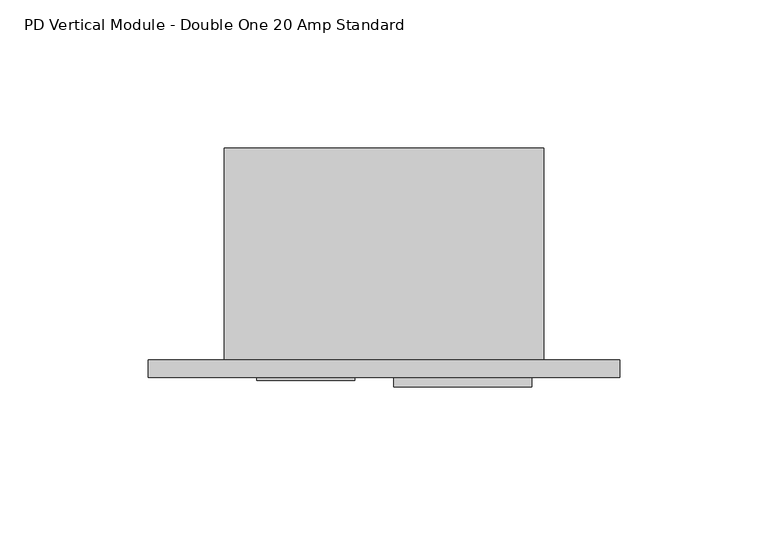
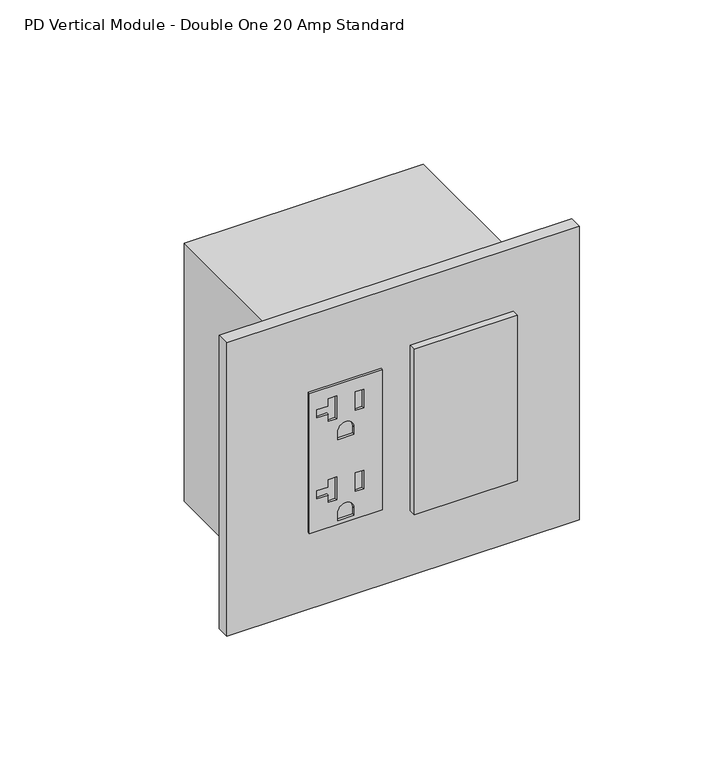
"""IFC4 building model written with IfcOpenShell, lengths in millimetres: proxy geometry, Electrical-Teknion-EPDMD_Vertical_Power_Data_Double-R2019 : PD Vertical Module - Double One 20 Amp Standard."""

from ifc_helpers import new_model, si_unit, point, frame, frame_2d, origin, place, context, project, spatial, polyline, circle_curve, trimmed, segment, composite_curve, outline, extrude, source, transform, mapped, element, save


def pd_vertical_module_double_one_20_amp_standard_2b35b868(model_context):
    return source(origin(), model_context, "Body", "SweptSolid", [
        extrude(outline(polyline([(414.4772, 44.0944), (414.4772, 11.0998), (347.5228, 11.0998), (347.5228, 44.0944), (414.4772, 44.0944)]), holes=[polyline([(409.0924, 23.4442), (398.272, 23.4442), (398.272, 19.6088), (401.7518, 19.6088), (401.7518, 14.5034), (405.6126, 14.5034), (405.6126, 19.6088), (409.0924, 19.6088), (409.0924, 23.4442)]), polyline([(408.1145, 35.6108), (399.2499, 35.6108), (399.2499, 31.7754), (408.1145, 31.7754), (408.1145, 35.6108)]), composite_curve([segment(polyline([(388.0866, 31.2293), (388.0866, 23.9649), (391.7188, 23.9649)]), True, "CONTINUOUS"), segment(trimmed(circle_curve(frame_2d((391.7188, 27.5971)), 3.6322), [point((391.7188, 23.9649))], [point((391.7188, 31.2293))], True, "CARTESIAN"), True, "CONTINUOUS"), segment(polyline([(391.7188, 31.2293), (388.0866, 31.2293)]), True, "CONTINUOUS")], self_intersect=False), polyline([(370.3574, 23.4442), (359.537, 23.4442), (359.537, 19.6088), (363.0168, 19.6088), (363.0168, 14.5034), (366.8776, 14.5034), (366.8776, 19.6088), (370.3574, 19.6088), (370.3574, 23.4442)]), polyline([(369.3795, 35.6108), (360.5149, 35.6108), (360.5149, 31.7754), (369.3795, 31.7754), (369.3795, 35.6108)]), composite_curve([segment(polyline([(349.3516, 31.2293), (349.3516, 23.9649), (352.9838, 23.9649)]), True, "CONTINUOUS"), segment(trimmed(circle_curve(frame_2d((352.9838, 27.5971)), 3.6322), [point((352.9838, 23.9649))], [point((352.9838, 31.2293))], True, "CARTESIAN"), True, "CONTINUOUS"), segment(polyline([(352.9838, 31.2293), (349.3516, 31.2293)]), True, "CONTINUOUS")], self_intersect=False)]), frame((0.0, -6.9294746, 0.0), z_axis=(0.0, 1.0, 0.0), x_axis=(0.0, 0.0, 1.0)), (0.0, 0.0, 1.0), 1.0366746),
        extrude(outline(polyline([(57.3278, -5.8928), (103.8606, -5.8928), (103.8606, -9.0678), (57.3278, -9.0678), (57.3278, -5.8928)])), frame((0.0, 0.0, 341.7026971), z_axis=(0.0, 0.0, 1.0), x_axis=(1.0, 0.0, 0.0)), (0.0, 0.0, 1.0), 79.0448),
        extrude(outline(polyline([(-25.6794, 0.0), (133.7056, 0.0), (133.7056, -5.8928), (-25.6794, -5.8928), (-25.6794, 0.0)])), frame((0.0, 0.0, 310.7302229), z_axis=(0.0, 0.0, 1.0), x_axis=(1.0, 0.0, 0.0)), (0.0, 0.0, 1.0), 140.3604),
        extrude(outline(polyline([(108.0262, 0.0), (0.0, 0.0), (0.0, 71.7296), (108.0262, 71.7296), (108.0262, 0.0)])), frame((0.0, 0.0, 319.1630229), z_axis=(0.0, 0.0, 1.0), x_axis=(1.0, 0.0, 0.0)), (0.0, 0.0, 1.0), 123.4948),
    ])


if __name__ == "__main__":
    model = new_model("IFC4")
    model_context = context("Model", 3, world=origin())
    ifc_project = project(units=[si_unit("LENGTHUNIT", "METRE", prefix="MILLI")], contexts=[model_context])
    site = spatial("IfcSite", under=ifc_project)
    building = spatial("IfcBuilding", under=site)
    placement = place(None, origin())
    pd_vertical_module_double_one_20_amp_standard_shape = pd_vertical_module_double_one_20_amp_standard_2b35b868(model_context)
    element("IfcBuildingElementProxy", 1, Name="Electrical-Teknion-EPDMD_Vertical_Power_Data_Double-R2019 : PD Vertical Module - Double One 20 Amp Standard", ObjectType="Electrical-Teknion-EPDMD_Vertical_Power_Data_Double-R2019 : PD Vertical Module - Double One 20 Amp Standard", at=placement, inside=building, context=model_context, shape_type="MappedRepresentation", body=[
        mapped(pd_vertical_module_double_one_20_amp_standard_shape, transform((0.0, 0.0, 0.0), x_axis=(1.0, 0.0, 0.0), y_axis=(0.0, 1.0, 0.0), z_axis=(0.0, 0.0, 1.0))),
    ])
    save(model, "model.ifc")
